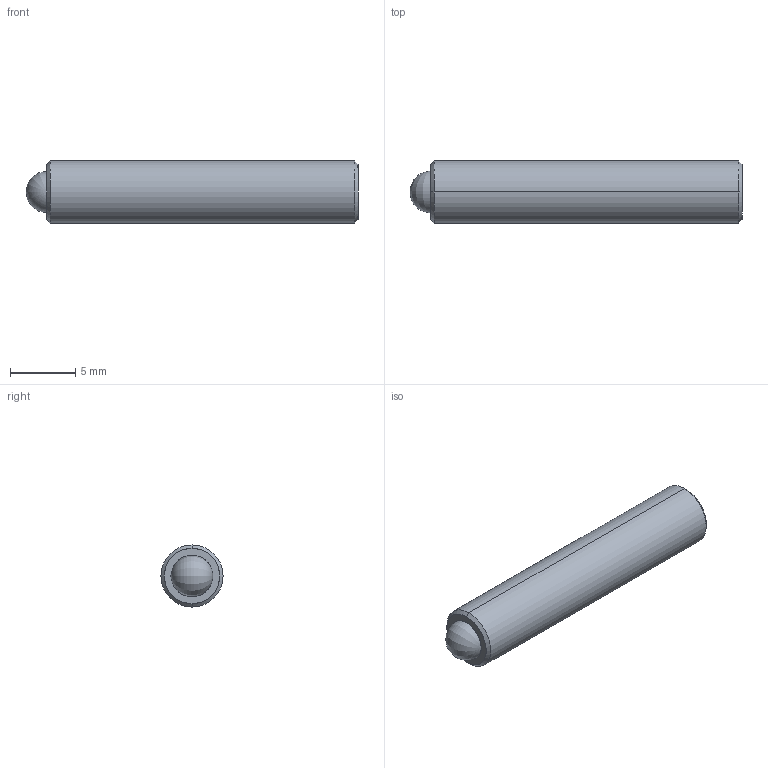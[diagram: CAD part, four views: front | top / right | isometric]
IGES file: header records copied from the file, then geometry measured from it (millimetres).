
Start section: SolidWorks IGES file using analytic representation for surfaces
Global section: file name: C:\Users\workpc\Desktop\KMA Solidworks\TS187-100 Series\TS187-100 High Vacuum\TS187-100-High Vacuum SLDPRT\TS187-100-1000-HV.IGS; native system: SolidWorks 2013; preprocessor: SolidWorks 2013; author: workpc; date: 130509.082841; units: inch
Bounding box: 25.4 x 4.75 x 4.75 mm (x, y, z)
Surface area: 449.5 mm2 (no closed solid volume)
Topology: 0 solids, 0 shells, 24 faces, 240 edges, 236 vertices
Faces by surface type: revolution 14, bspline 10
